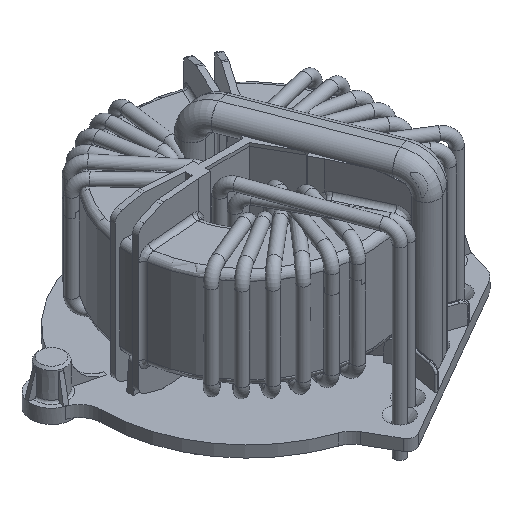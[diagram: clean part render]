
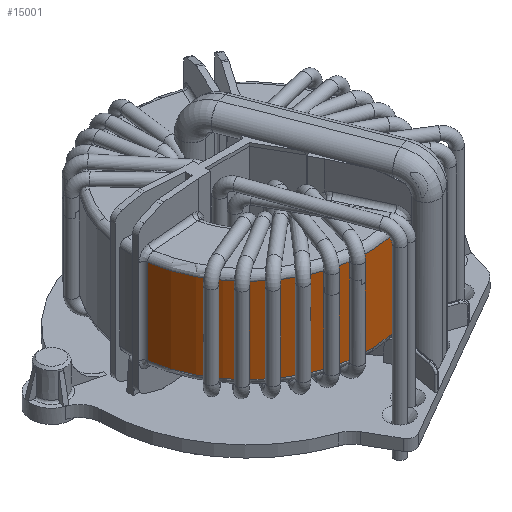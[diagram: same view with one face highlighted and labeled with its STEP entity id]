
A CAD part, isometric view. The second image highlights one B-rep face of the part: STEP entity #15001.
In plain terms, the highlighted cylindrical face has radius 27.45 mm (diameter 54.9 mm), a partial arc.
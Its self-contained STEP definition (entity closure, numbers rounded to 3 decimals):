
#5868=CARTESIAN_POINT('',(10.027,-25.553,1.5));
#5869=VERTEX_POINT('',#5868);
#5879=CARTESIAN_POINT('',(-27.143,-4.093,1.5));
#5880=VERTEX_POINT('',#5879);
#5881=CARTESIAN_POINT('',(0.,0.,1.5));
#5882=DIRECTION('',(0.,0.,-1.0));
#5883=DIRECTION('',(-0.5,-0.866,0.));
#5884=AXIS2_PLACEMENT_3D('',#5881,#5882,#5883);
#5885=CIRCLE('',#5884,27.45);
#5886=EDGE_CURVE('',#5869,#5880,#5885,.T.);
#14826=CARTESIAN_POINT('',(10.027,-25.553,21.));
#14827=VERTEX_POINT('',#14826);
#14862=CARTESIAN_POINT('',(10.027,-25.553,21.));
#14863=DIRECTION('',(0.0,0.0,-1.0));
#14864=VECTOR('',#14863,19.5);
#14865=LINE('',#14862,#14864);
#14866=EDGE_CURVE('',#14827,#5869,#14865,.T.);
#14977=CARTESIAN_POINT('',(0.0,0.0,11.25));
#14978=DIRECTION('',(0.,0.,1.0));
#14979=DIRECTION('',(-1.0,0.0,0.0));
#14980=AXIS2_PLACEMENT_3D('',#14977,#14978,#14979);
#14981=CYLINDRICAL_SURFACE('',#14980,27.45);
#14982=ORIENTED_EDGE('',*,*,#14866,.F.);
#14983=CARTESIAN_POINT('',(-27.143,-4.093,21.));
#14984=VERTEX_POINT('',#14983);
#14985=CARTESIAN_POINT('',(0.,0.,21.));
#14986=DIRECTION('',(0.,0.,1.0));
#14987=DIRECTION('',(-0.5,-0.866,0.));
#14988=AXIS2_PLACEMENT_3D('',#14985,#14986,#14987);
#14989=CIRCLE('',#14988,27.45);
#14990=EDGE_CURVE('',#14984,#14827,#14989,.T.);
#14991=ORIENTED_EDGE('',*,*,#14990,.F.);
#14992=CARTESIAN_POINT('',(-27.143,-4.093,1.5));
#14993=DIRECTION('',(0.0,0.0,1.0));
#14994=VECTOR('',#14993,19.5);
#14995=LINE('',#14992,#14994);
#14996=EDGE_CURVE('',#5880,#14984,#14995,.T.);
#14997=ORIENTED_EDGE('',*,*,#14996,.F.);
#14998=ORIENTED_EDGE('',*,*,#5886,.F.);
#14999=EDGE_LOOP('',(#14982,#14991,#14997,#14998));
#15000=FACE_OUTER_BOUND('',#14999,.T.);
#15001=ADVANCED_FACE('',(#15000),#14981,.T.);
